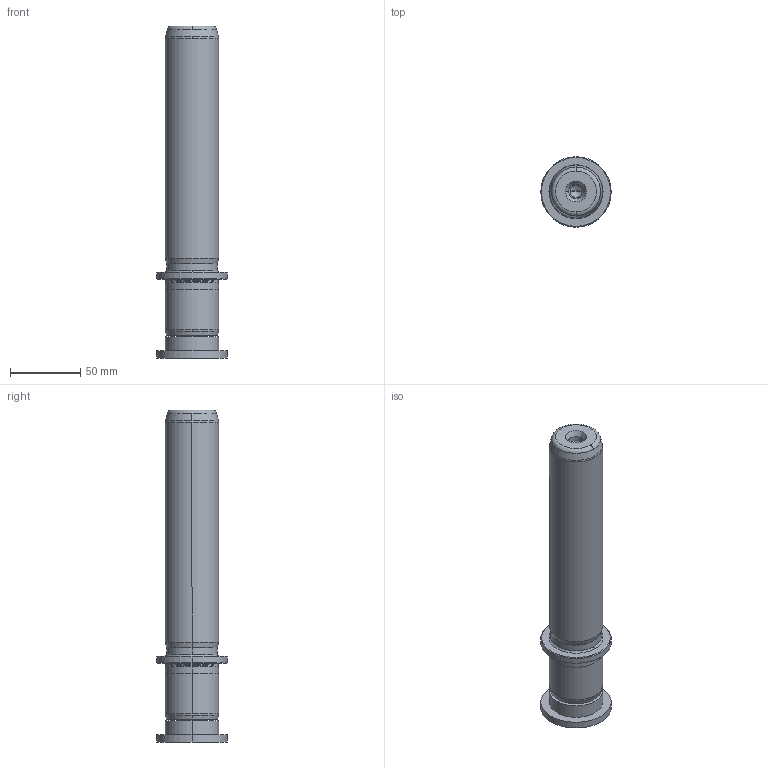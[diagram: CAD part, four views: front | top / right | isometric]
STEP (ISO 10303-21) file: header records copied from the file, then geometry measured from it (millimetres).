
FILE_DESCRIPTION((''),'2;1');
FILE_NAME('P22_038_180.stp','2009-02-16T09:15:52',(''),(''),'Mechanical Desktop 2009','Mechanical Desktop 2009',', , ');
FILE_SCHEMA(('CONFIG_CONTROL_DESIGN'));
Length unit declared in the file: millimetre
Products named in the file (2): Product; blmdl1
Assembly tree (1 placements, depth 2):
  Product
    blmdl1
Bounding box: 50 x 50 x 236 mm (x, y, z)
Volume: 268961.4 mm3; surface area: 39730.4 mm2
Topology: 3 solids, 3 shells, 99 faces, 237 edges, 149 vertices
Faces by surface type: cylinder 32, cone 28, plane 19, torus 10, bspline 10
Entity records: 3419 total; most frequent: CARTESIAN_POINT 923, DIRECTION 570, ORIENTED_EDGE 466, AXIS2_PLACEMENT_3D 246, EDGE_CURVE 233, CIRCLE 155, VERTEX_POINT 149, EDGE_LOOP 110
